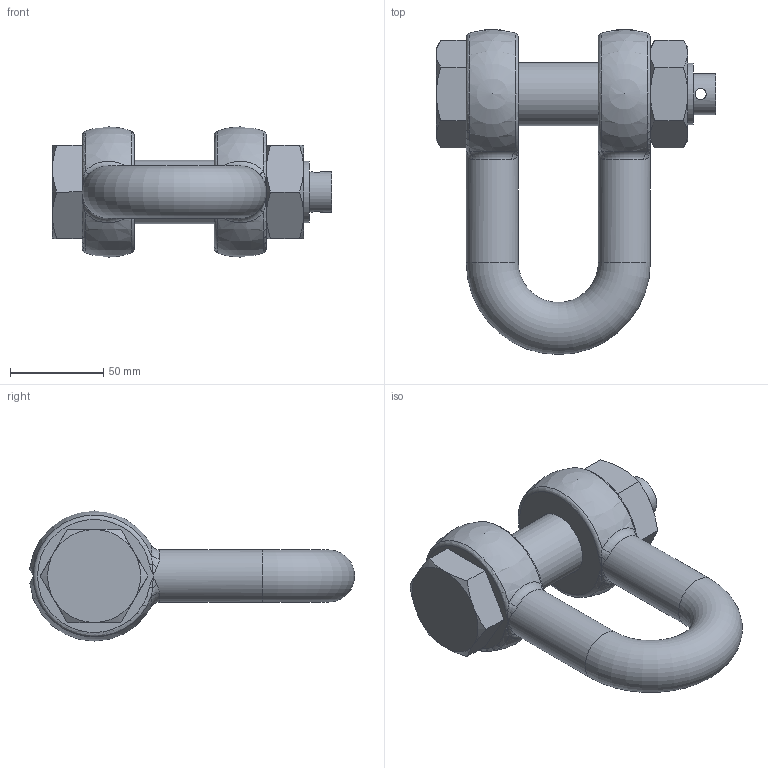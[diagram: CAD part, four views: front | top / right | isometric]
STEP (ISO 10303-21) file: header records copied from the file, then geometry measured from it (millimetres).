
FILE_DESCRIPTION(/* description */ (''),/* implementation_level */ '2;1');
FILE_NAME(/* name */ 'C:\Users\D\Documents\Inventor\HP\吊具\シャックル\SB_2\sb_28.stp',/* time_stamp */ '2024-11-14T11:44:46+09:00',/* author */ ('D'),/* organization */ (''),/* preprocessor_version */ 'ST-DEVELOPER v18',/* originating_system */ 'Autodesk Inventor 2020',/* authorisation */ '');
FILE_SCHEMA (('AUTOMOTIVE_DESIGN { 1 0 10303 214 3 1 1 }'));
Length unit declared in the file: millimetre
Products named in the file (3): sb_28; sb_6; sb_pin_10
Assembly tree (2 placements, depth 2):
  sb_28
    sb_6
    sb_pin_10
Bounding box: 150 x 174.74 x 70 mm (x, y, z)
Volume: 462561.1 mm3; surface area: 70877.1 mm2
Topology: 2 solids, 2 shells, 85 faces, 219 edges, 121 vertices
Faces by surface type: bspline 24, plane 22, cone 19, cylinder 9, torus 9, sphere 2
Full cylindrical faces by diameter (mm): 6 x1, 22 x1, 28 x2, 33 x2, 34 x1, 35 x2
Entity records: 3242 total; most frequent: CARTESIAN_POINT 1383, ORIENTED_EDGE 398, DIRECTION 339, EDGE_CURVE 199, AXIS2_PLACEMENT_3D 155, VERTEX_POINT 121, EDGE_LOOP 94, CIRCLE 89
